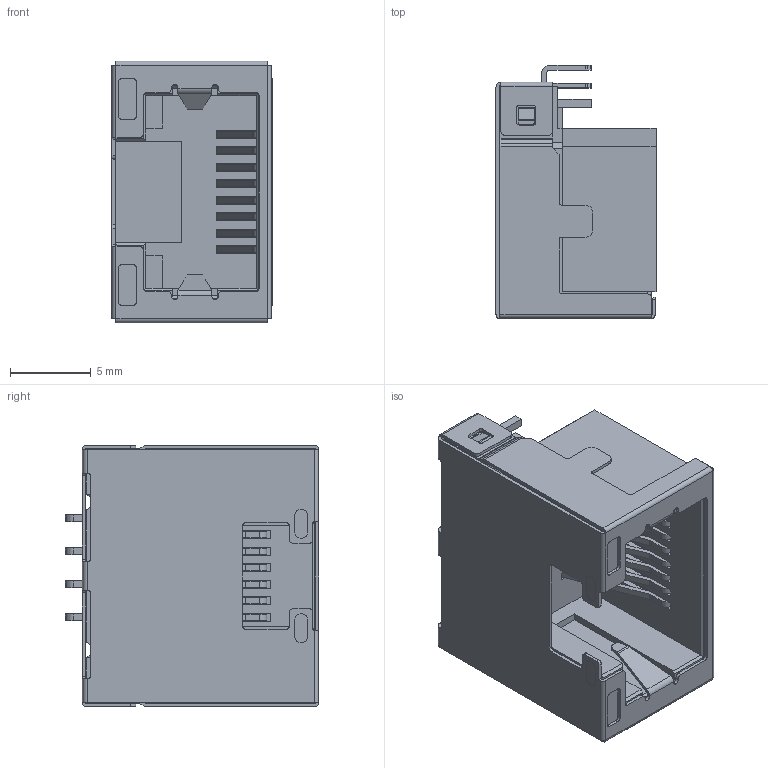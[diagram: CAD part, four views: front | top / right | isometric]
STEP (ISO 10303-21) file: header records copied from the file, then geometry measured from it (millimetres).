
FILE_DESCRIPTION (( 'STEP AP203' ), '1' );
FILE_NAME ('RJ45 反口沉板4.1H.STEP', '2022-02-12T07:33:35', ( '微软用户' ), ( '微软中国' ), 'SwSTEP 2.0', 'SolidWorks 2016', '' );
FILE_SCHEMA (( 'CONFIG_CONTROL_DESIGN' ));
Length unit declared in the file: millimetre
Products named in the file (1): RJ45 毀諳麥啣4.1H
Bounding box: 9.9 x 15.65 x 16.18 mm (x, y, z)
Volume: 847.4 mm3; surface area: 2842.1 mm2
Topology: 1 solids, 1 shells, 1504 faces, 4434 edges, 2864 vertices
Faces by surface type: plane 1047, cylinder 453, sphere 4
Entity records: 49811 total; most frequent: CARTESIAN_POINT 9045, ORIENTED_EDGE 8860, DIRECTION 8262, EDGE_CURVE 4430, LINE 3452, VECTOR 3452, VERTEX_POINT 2864, AXIS2_PLACEMENT_3D 2405
